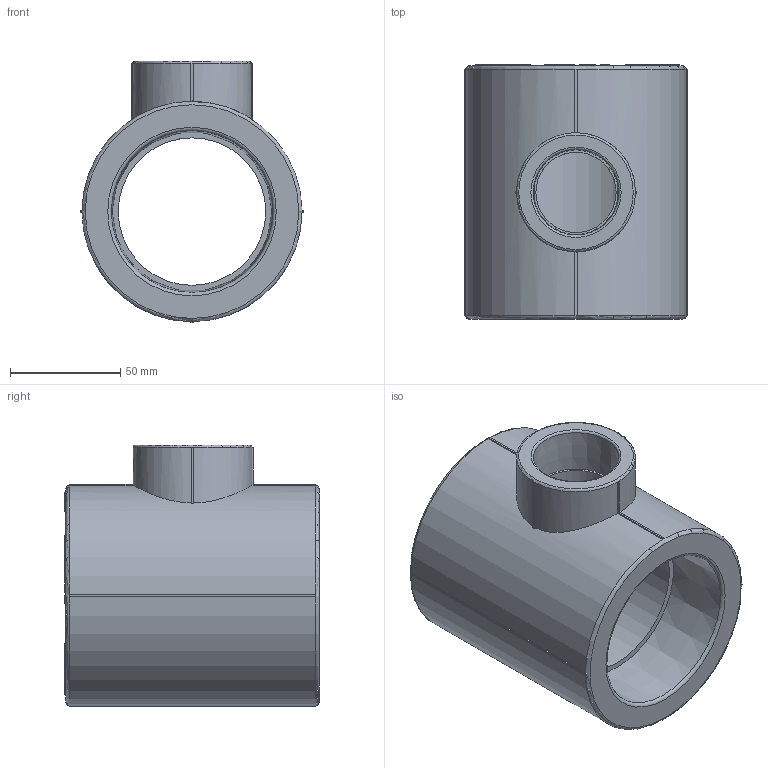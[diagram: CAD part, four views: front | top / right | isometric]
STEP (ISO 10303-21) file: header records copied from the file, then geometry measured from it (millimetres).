
FILE_DESCRIPTION(('STEP AP203'), '1');
FILE_NAME('ÂÐ.752241.072 - VTp.735.0.075040075', '', ('UNSPECIFIED'), ('UNSPECIFIED'), 'C3D Converter', 'C3D Toolkit', '');
FILE_SCHEMA(('CONFIG_CONTROL_DESIGN'));
Length unit declared in the file: millimetre
Products named in the file (1): ВР.752241.072
Bounding box: 101 x 115.5 x 118.8 mm (x, y, z)
Volume: 462573.1 mm3; surface area: 75778.9 mm2
Topology: 1 solids, 1 shells, 1105 faces, 3101 edges, 2059 vertices
Faces by surface type: extrusion 641, plane 420, cylinder 35, torus 6, cone 3
Full cylindrical faces by diameter (mm): 8 x1, 36.5 x1, 67 x1
Entity records: 40944 total; most frequent: CARTESIAN_POINT 15818, ORIENTED_EDGE 6178, DIRECTION 3126, EDGE_CURVE 3089, VECTOR 2106, VERTEX_POINT 2059, B_SPLINE_CURVE_WITH_KNOTS 1930, LINE 1465
